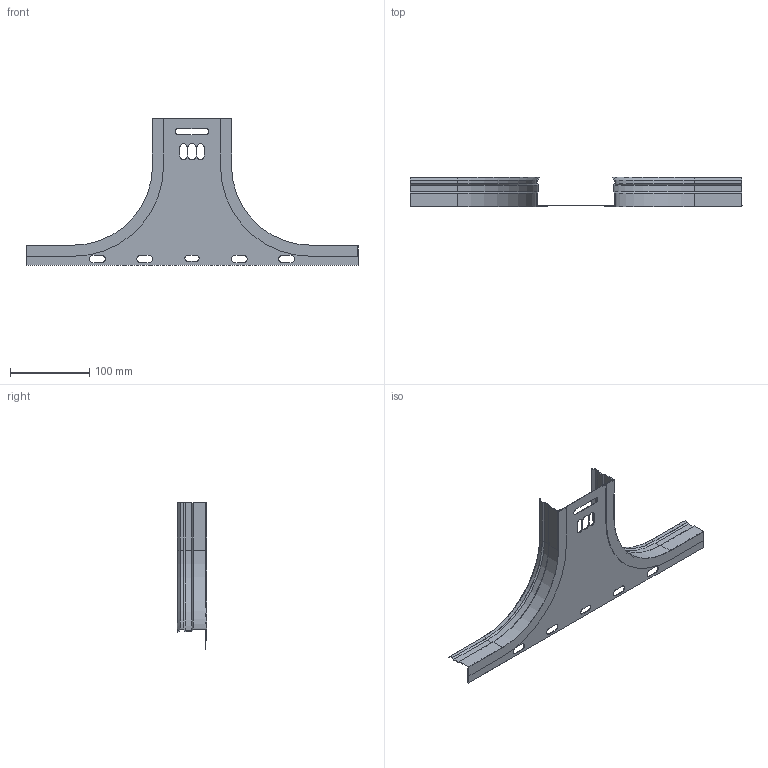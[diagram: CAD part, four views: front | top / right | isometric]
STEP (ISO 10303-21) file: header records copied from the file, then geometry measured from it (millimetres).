
FILE_DESCRIPTION (( 'STEP AP203' ), '1' );
FILE_NAME ('ERE_AS 100x35.step', '2023-07-27T18:49:53', ( '' ), ( '' ), 'SwSTEP 2.0', 'SolidWorks 2022', '' );
FILE_SCHEMA (( 'CONFIG_CONTROL_DESIGN' ));
Length unit declared in the file: millimetre
Products named in the file (3): ERE_AS 100x35; ERE_BASE AS_100; ERE_LATERAL AS_35
Assembly tree (3 placements, depth 2):
  ERE_AS 100x35
    ERE_BASE AS_100
    ERE_LATERAL AS_35  x2
Bounding box: 420 x 37 x 185.5 mm (x, y, z)
Volume: 52679.5 mm3; surface area: 119530.7 mm2
Topology: 3 solids, 3 shells, 146 faces, 372 edges, 232 vertices
Faces by surface type: plane 92, cylinder 40, cone 14
Entity records: 3437 total; most frequent: DIRECTION 544, CARTESIAN_POINT 538, ORIENTED_EDGE 528, EDGE_CURVE 264, VECTOR 196, LINE 196, AXIS2_PLACEMENT_3D 174, VERTEX_POINT 168
